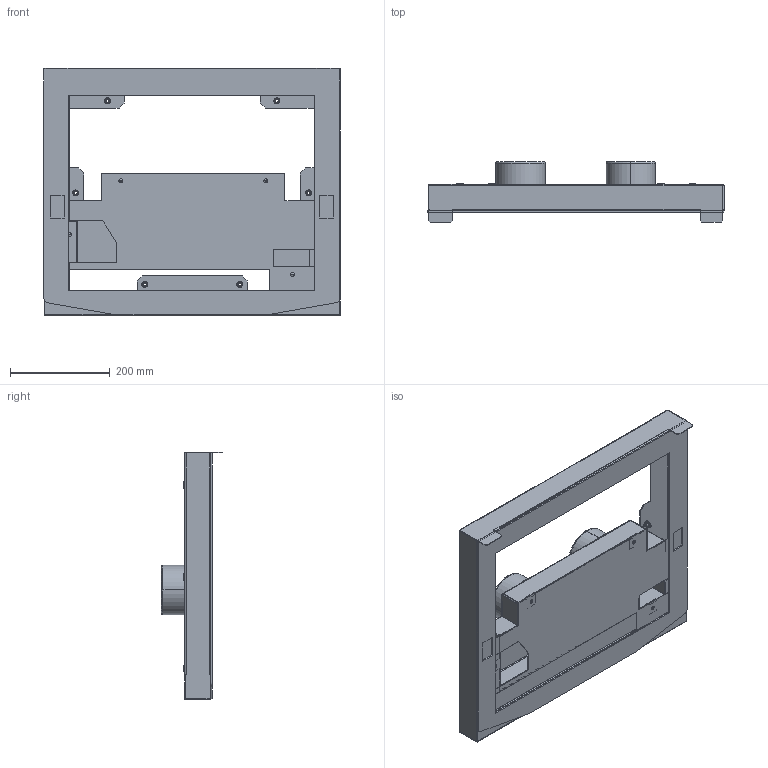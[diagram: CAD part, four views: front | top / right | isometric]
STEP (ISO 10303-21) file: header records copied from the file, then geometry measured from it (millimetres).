
FILE_DESCRIPTION (( 'STEP AP214' ), '1' );
FILE_NAME ('DTT63-6401_PAD ab 2016.STEP', '2016-11-29T06:37:06', ( '' ), ( '' ), 'SwSTEP 2.0', 'SolidWorks 2015', '' );
FILE_SCHEMA (( 'AUTOMOTIVE_DESIGN' ));
Length unit declared in the file: millimetre
Products named in the file (12): 11189-823; Blindniet_020103031 3.2x8 K7.6; Blindniet_020140321 4,0x10,5 K8 Alu_VA; 30178-084; Blindnietmutter  Sechskant offen_020140030 M6x14,5 6kt offen St; 002800008 Bundkragen D100; 30178-302; 30178-401; 30178-303; 30178-301; 30178-300; DTT63-6401_PAD ab 2016
Assembly tree (27 placements, depth 3):
  DTT63-6401_PAD ab 2016
    30178-401
      30178-300
      30178-301
      30178-303
    30178-302
    002800008 Bundkragen D100  x2
    Blindnietmutter  Sechskant offen_020140030 M6x14,5 6kt offen St  x6
    30178-084
    Blindniet_020140321 4,0x10,5 K8 Alu_VA  x4
    Blindniet_020103031 3.2x8 K7.6  x8
    11189-823
Bounding box: 595.8 x 122.73 x 497.5 mm (x, y, z)
Volume: 1134151 mm3; surface area: 1393439.6 mm2
Topology: 26 solids, 26 shells, 2893 faces, 7558 edges, 4946 vertices
Faces by surface type: plane 1594, bspline 901, cylinder 244, sphere 72, cone 54, torus 28
Entity records: 128896 total; most frequent: CARTESIAN_POINT 67048, ORIENTED_EDGE 13548, DIRECTION 8691, EDGE_CURVE 6774, LINE 4561, VECTOR 4561, VERTEX_POINT 4455, EDGE_LOOP 2847
